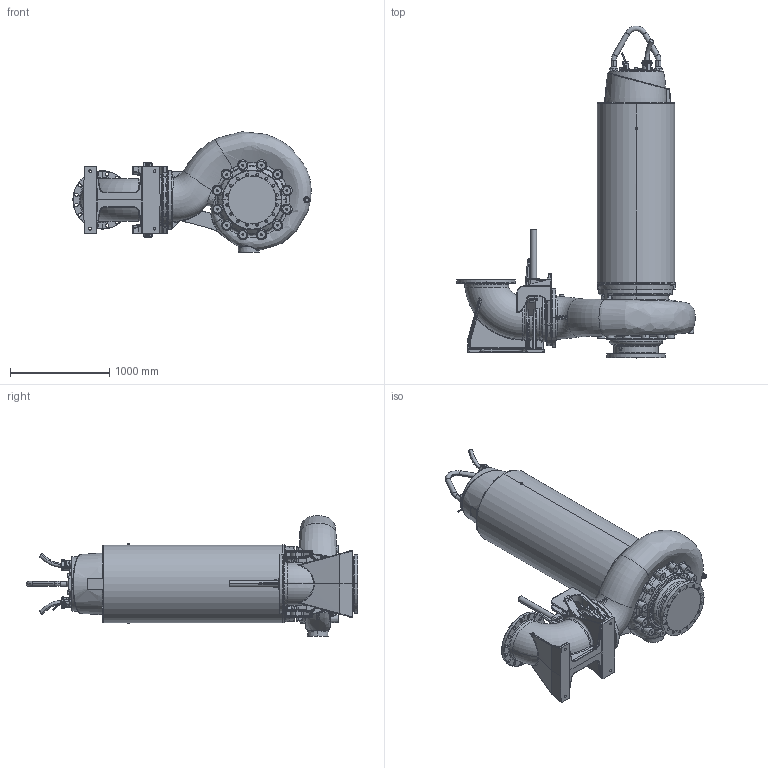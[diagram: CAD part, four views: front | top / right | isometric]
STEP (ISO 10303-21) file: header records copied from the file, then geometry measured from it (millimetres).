
FILE_DESCRIPTION (( 'STEP AP214' ), '1' );
FILE_NAME ('PE7_XFP400T-CH3_WET_F.STEP', '2017-03-30T08:37:14', ( '' ), ( '' ), 'SwSTEP 2.0', 'SolidWorks 2017', '' );
FILE_SCHEMA (( 'AUTOMOTIVE_DESIGN' ));
Length unit declared in the file: millimetre
Products named in the file (1): PE7_XFP400T-CH3_WET_F
Bounding box: 2406.18 x 3352.09 x 1215.77 mm (x, y, z)
Volume: 1666868238.2 mm3; surface area: 16533718.4 mm2
Topology: 4 solids, 29 shells, 4767 faces, 11777 edges, 7001 vertices
Faces by surface type: plane 1331, cylinder 1330, bspline 1040, torus 510, cone 350, sphere 206
Entity records: 297519 total; most frequent: CARTESIAN_POINT 140931, ORIENTED_EDGE 23124, DIRECTION 20049, EDGE_CURVE 11562, AXIS2_PLACEMENT_3D 7848, VERTEX_POINT 6995, EDGE_LOOP 5133, UNCERTAINTY_MEASURE_WITH_UNIT 4773
